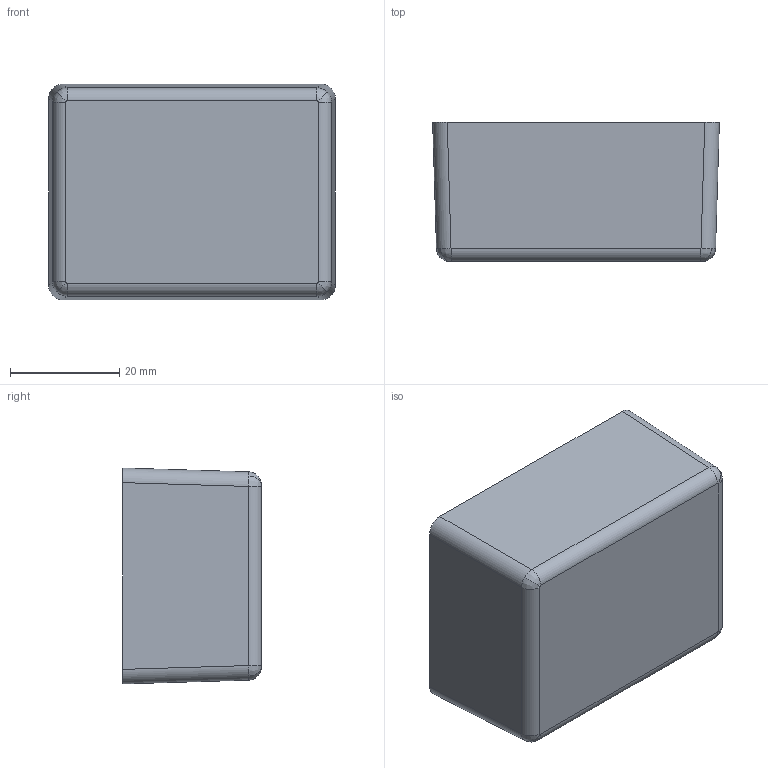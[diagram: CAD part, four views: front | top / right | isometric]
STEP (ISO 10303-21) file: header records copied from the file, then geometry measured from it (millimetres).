
FILE_DESCRIPTION (( 'STEP AP214' ), '1' );
FILE_NAME ('P-1521TX SLDPRT.STEP', '2010-07-09T19:04:09', ( 'steve began' ), ( 'polycase' ), 'SwSTEP 2.0', 'SolidWorks 2010', '' );
FILE_SCHEMA (( 'AUTOMOTIVE_DESIGN' ));
Length unit declared in the file: inch
Products named in the file (1): P-1521TX SLDPRT
Bounding box: 52.45 x 25.4 x 39.5 mm (x, y, z)
Volume: 9749.5 mm3; surface area: 12079.2 mm2
Topology: 1 solids, 1 shells, 52 faces, 128 edges, 80 vertices
Faces by surface type: bspline 20, plane 16, cylinder 16
Entity records: 1876 total; most frequent: CARTESIAN_POINT 801, ORIENTED_EDGE 256, DIRECTION 170, EDGE_CURVE 128, VERTEX_POINT 80, AXIS2_PLACEMENT_3D 57, VECTOR 56, LINE 56
